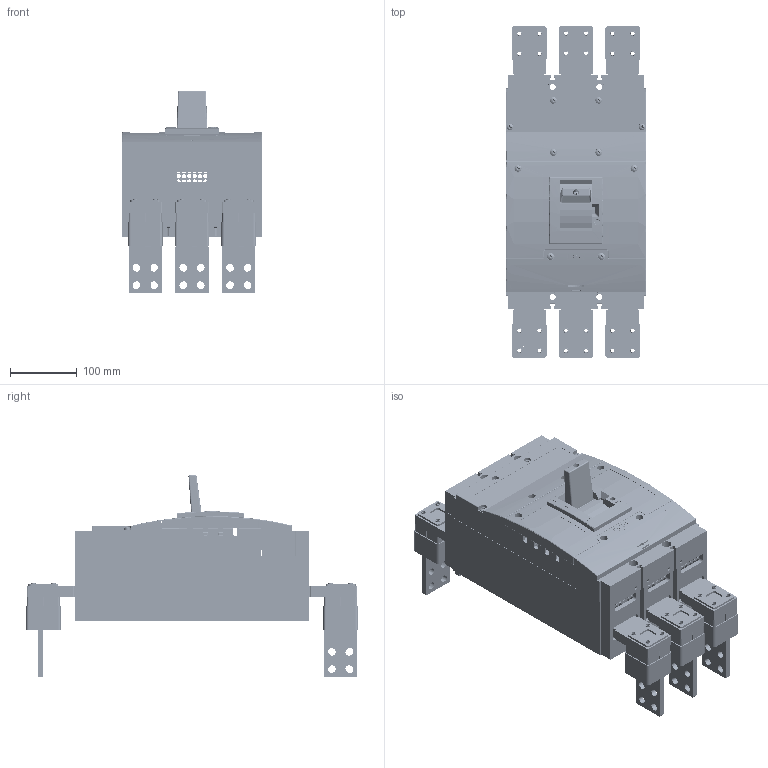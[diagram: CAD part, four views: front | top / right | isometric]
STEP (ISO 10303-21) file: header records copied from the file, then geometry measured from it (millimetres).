
FILE_DESCRIPTION (( 'STEP AP214' ), '1' );
FILE_NAME ('BL1000SE305__SE-BL-J__CS-BL-A022.step', '2011-09-08T08:00:37', ( 'Radek Veselý' ), ( 'Siemens and Partners' ), 'SwSTEP 2.0', 'SolidWorks 2006303', '' );
FILE_SCHEMA (( 'AUTOMOTIVE_DESIGN' ));
Length unit declared in the file: millimetre
Products named in the file (1): BL1000SE305__SE-BL-J__CS-BL-A022
Bounding box: 210 x 497 x 303.02 mm (x, y, z)
Volume: 4172920.2 mm3; surface area: 1664593.8 mm2
Topology: 63 solids, 63 shells, 7155 faces, 19524 edges, 12521 vertices
Faces by surface type: plane 3819, cylinder 2603, cone 258, torus 187, sphere 158, bspline 130
Entity records: 317715 total; most frequent: CARTESIAN_POINT 54280, ORIENTED_EDGE 38790, DIRECTION 38274, EDGE_CURVE 19395, AXIS2_PLACEMENT_3D 12910, VERTEX_POINT 12511, LINE 12454, VECTOR 12454
